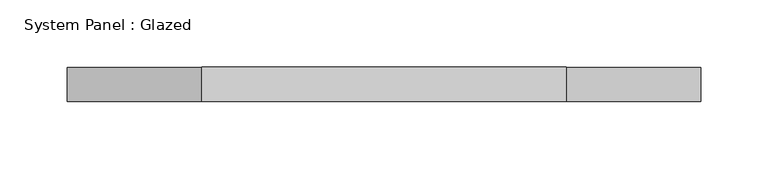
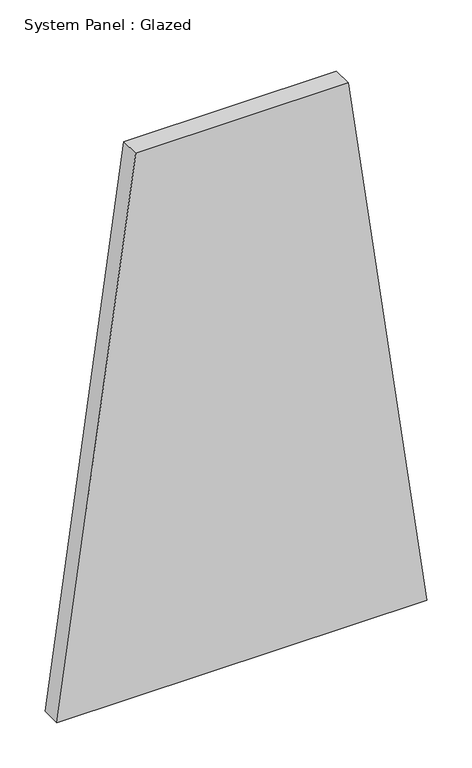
"""IFC4 building model written with IfcOpenShell, lengths in millimetres: plate geometry, System Panel : Glazed."""

from ifc_helpers import new_model, si_unit, frame, origin, place, context, project, spatial, polyline, outline, extrude, source, transform, mapped, element, save


def system_panel_glazed_03693a4c(model_context):
    return source(origin(), model_context, "Body", "SweptSolid", [
        extrude(outline(polyline([(0.0, -234.6997221), (0.0, 234.6997221), (729.5777133, 134.9604247), (729.5777133, -134.9604247), (0.0, -234.6997221)])), frame((0.0, 19.05, 0.0), z_axis=(0.0, 1.0, 0.0), x_axis=(0.0, 0.0, 1.0)), (0.0, 0.0, 1.0), 25.4),
    ])


if __name__ == "__main__":
    model = new_model("IFC4")
    model_context = context("Model", 3, world=origin())
    ifc_project = project(units=[si_unit("LENGTHUNIT", "METRE", prefix="MILLI")], contexts=[model_context])
    site = spatial("IfcSite", under=ifc_project)
    building = spatial("IfcBuilding", under=site)
    placement = place(None, origin())
    system_panel_glazed_shape = system_panel_glazed_03693a4c(model_context)
    element("IfcPlate", 1, ObjectType="System Panel : Glazed", at=placement, inside=building, context=model_context, shape_type="MappedRepresentation", body=[
        mapped(system_panel_glazed_shape, transform((0.0, 0.0, 0.0), x_axis=(1.0, 0.0, 0.0), y_axis=(0.0, 1.0, 0.0), z_axis=(0.0, 0.0, 1.0))),
    ])
    save(model, "model.ifc")
